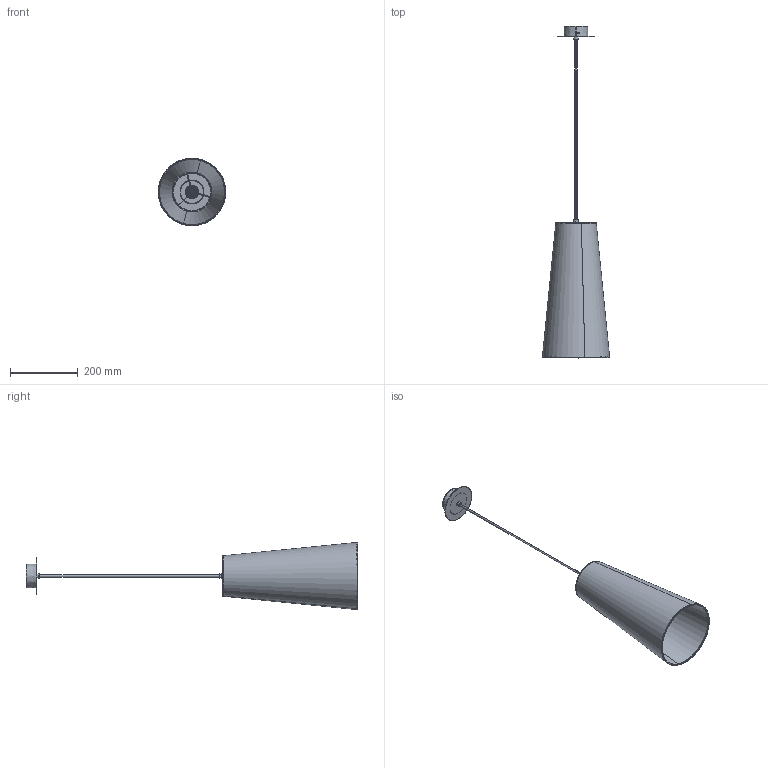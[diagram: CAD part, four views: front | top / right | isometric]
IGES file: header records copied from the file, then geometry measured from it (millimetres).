
Start section: SolidWorks IGES file using analytic representation for surfaces
Global section: file name: C:\SANTACOLE_PDM\proyectos catálogo\prod-p13-078 -- conexión sísísí simple\6_Técnico comercial\3D\Sistema sisisi MT2.IGS; native system: SolidWorks 2019; preprocessor: SolidWorks 2019; author: louis.ferraz; date: 200407.111237; units: millimetre
Bounding box: 199.32 x 982.61 x 199.32 mm (x, y, z)
Surface area: 486637.6 mm2 (no closed solid volume)
Topology: 0 solids, 0 shells, 311 faces, 4667 edges, 4667 vertices
Faces by surface type: revolution 212, bspline 99
